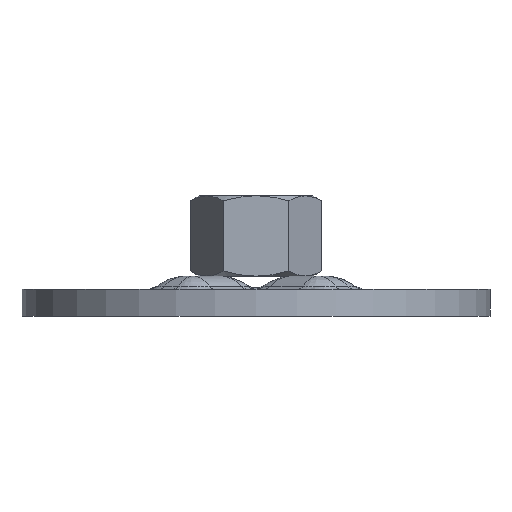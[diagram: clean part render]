
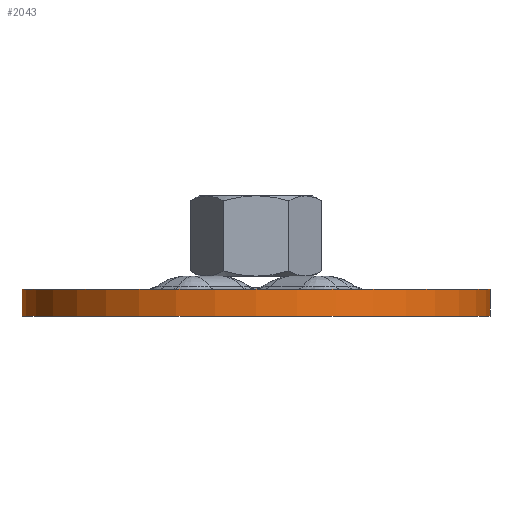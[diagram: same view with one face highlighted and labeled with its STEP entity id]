
A CAD part, front view. The second image highlights one B-rep face of the part: STEP entity #2043.
In plain terms, the highlighted cylindrical face has radius 35 mm (diameter 70 mm), a full revolution.
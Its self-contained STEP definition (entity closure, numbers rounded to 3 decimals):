
#124=CYLINDRICAL_SURFACE('',#2279,35.);
#196=LINE('',#5847,#259);
#259=VECTOR('',#2711,35.);
#479=FACE_OUTER_BOUND('',#616,.T.);
#616=EDGE_LOOP('',(#1655,#1656,#1657,#1658));
#734=CIRCLE('',#2252,35.);
#745=CIRCLE('',#2269,35.);
#898=VERTEX_POINT('',#5791);
#910=VERTEX_POINT('',#5823);
#1158=EDGE_CURVE('',#898,#898,#734,.T.);
#1172=EDGE_CURVE('',#910,#910,#745,.T.);
#1184=EDGE_CURVE('',#910,#898,#196,.T.);
#1655=ORIENTED_EDGE('',*,*,#1172,.F.);
#1656=ORIENTED_EDGE('',*,*,#1184,.T.);
#1657=ORIENTED_EDGE('',*,*,#1158,.T.);
#1658=ORIENTED_EDGE('',*,*,#1184,.F.);
#2043=ADVANCED_FACE('',(#479),#124,.T.);
#2252=AXIS2_PLACEMENT_3D('',#5792,#2649,#2650);
#2269=AXIS2_PLACEMENT_3D('',#5824,#2686,#2687);
#2279=AXIS2_PLACEMENT_3D('',#5846,#2709,#2710);
#2649=DIRECTION('center_axis',(0.,0.,1.));
#2650=DIRECTION('ref_axis',(-1.,0.,0.));
#2686=DIRECTION('center_axis',(0.,0.,1.));
#2687=DIRECTION('ref_axis',(-1.,0.,0.));
#2709=DIRECTION('center_axis',(0.,0.,1.));
#2710=DIRECTION('ref_axis',(1.,0.,0.));
#2711=DIRECTION('',(0.,0.,-1.));
#5791=CARTESIAN_POINT('',(-35.,0.,0.));
#5792=CARTESIAN_POINT('Origin',(0.,0.,0.));
#5823=CARTESIAN_POINT('',(-35.,0.,4.));
#5824=CARTESIAN_POINT('Origin',(0.,0.,4.));
#5846=CARTESIAN_POINT('Origin',(0.,0.,0.));
#5847=CARTESIAN_POINT('',(-35.,0.,0.));
